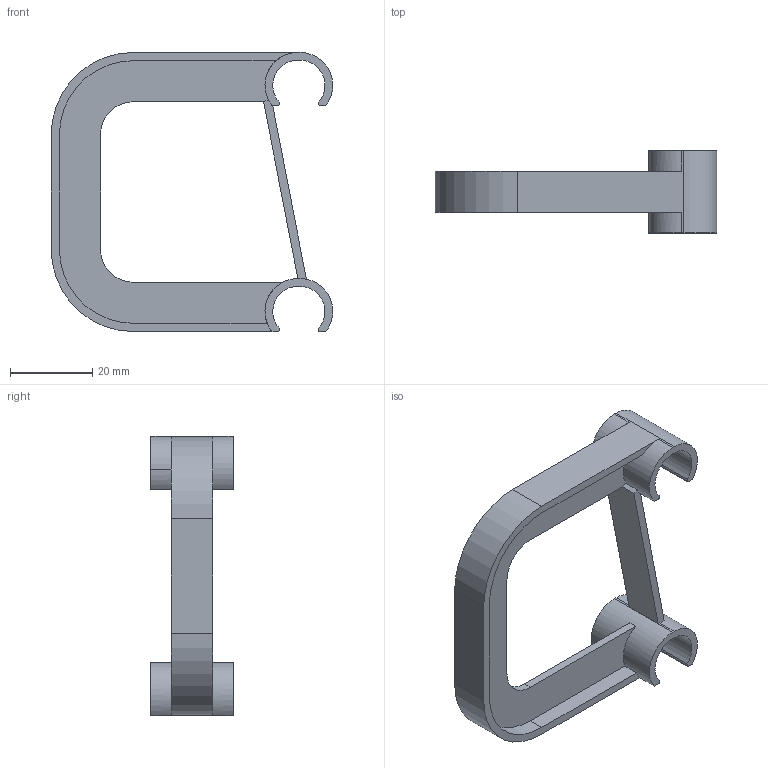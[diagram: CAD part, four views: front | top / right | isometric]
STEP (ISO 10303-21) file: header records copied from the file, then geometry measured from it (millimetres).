
FILE_DESCRIPTION (( 'STEP AP214' ), '1' );
FILE_NAME ('Flaschenhalter.STEP', '2010-09-07T14:54:25', ( 'grass' ), ( '' ), 'SwSTEP 2.0', 'SolidWorks 2010', '' );
FILE_SCHEMA (( 'AUTOMOTIVE_DESIGN' ));
Length unit declared in the file: millimetre
Products named in the file (1): Flaschenhalter
Bounding box: 68.5 x 20 x 67.9 mm (x, y, z)
Volume: 9225.2 mm3; surface area: 10348.9 mm2
Topology: 1 solids, 1 shells, 58 faces, 172 edges, 114 vertices
Faces by surface type: plane 32, cylinder 26
Entity records: 2000 total; most frequent: DIRECTION 352, CARTESIAN_POINT 345, ORIENTED_EDGE 344, EDGE_CURVE 172, AXIS2_PLACEMENT_3D 121, VERTEX_POINT 114, LINE 110, VECTOR 110
